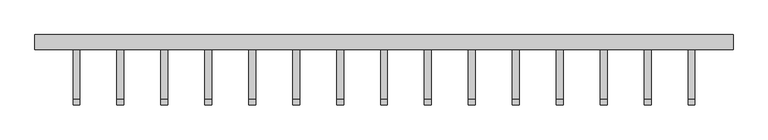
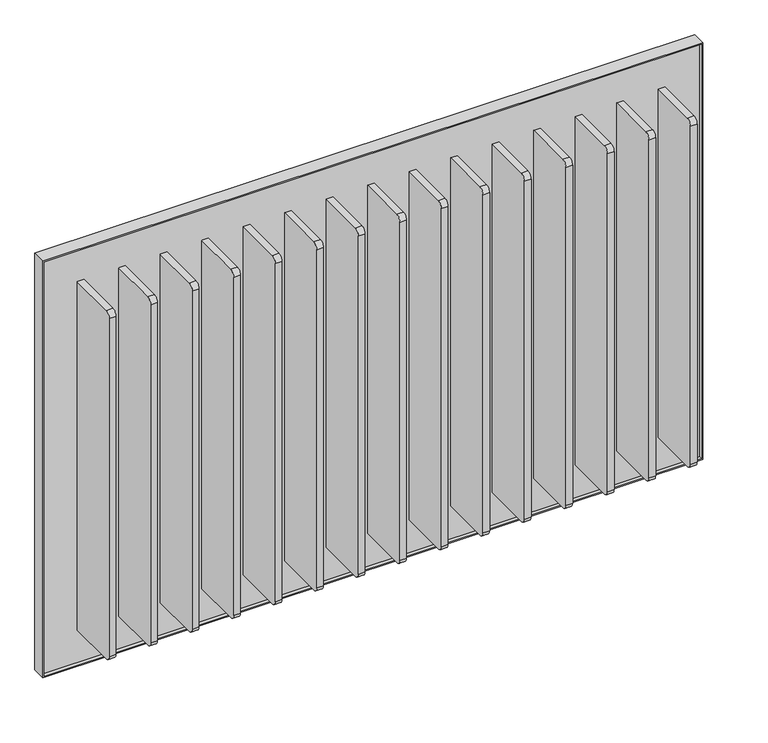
"""IFC4 building model written with IfcOpenShell, lengths in millimetres: proxy geometry, Frame_Cascade 7.3dm."""

from ifc_helpers import new_model, si_unit, point, frame, frame_2d, origin, place, context, project, spatial, polyline, circle_curve, trimmed, segment, composite_curve, outline, extrude, source, transform, mapped, element, save


def generic_models_20795055(model_context):
    return source(origin(), model_context, "Body", "SweptSolid", [
        extrude(outline(polyline([(3076.6541345, 4375.0823426), (3880.6541345, 4375.0823426), (3880.6541345, 3171.0823426), (3076.6541345, 3171.0823426), (3076.6541345, 4375.0823426)]), holes=[polyline([(3078.6541345, 4373.0823426), (3078.6541345, 3173.0823426), (3878.6541345, 3173.0823426), (3878.6541345, 4373.0823426), (3078.6541345, 4373.0823426)])]), frame((0.0, 107.9068681, 0.0), z_axis=(0.0, 1.0, 0.0), x_axis=(0.0, 0.0, 1.0)), (0.0, 0.0, 1.0), 25.4),
        extrude(outline(polyline([(4373.0823426, 114.2568681), (3173.0823426, 114.2568681), (3173.0823426, 126.2568681), (4373.0823426, 126.2568681), (4373.0823426, 114.2568681)])), frame((0.0, 0.0, 3078.6541345), z_axis=(0.0, 0.0, 1.0), x_axis=(1.0, 0.0, 0.0)), (0.0, 0.0, 1.0), 800.0),
        extrude(outline(composite_curve([segment(polyline([(21.9568681, 3814.9041345), (114.2568681, 3814.9041345), (114.2568681, 3142.4041345), (21.9568681, 3142.4041345)]), True, "CONTINUOUS"), segment(trimmed(circle_curve(frame_2d((21.9568681, 3152.4041345)), 10.0), [point((21.9568681, 3142.4041345))], [point((11.9568681, 3152.4041345))], False, "CARTESIAN"), True, "CONTINUOUS"), segment(polyline([(11.9568681, 3152.4041345), (11.9568681, 3804.9041345)]), True, "CONTINUOUS"), segment(trimmed(circle_curve(frame_2d((21.9568681, 3804.9041345)), 10.0), [point((11.9568681, 3804.9041345))], [point((21.9568681, 3814.9041345))], False, "CARTESIAN"), True, "CONTINUOUS")], self_intersect=False)), frame((3236.8323426, 0.0, 0.0), z_axis=(1.0, 0.0, 0.0), x_axis=(0.0, 1.0, 0.0)), (0.0, 0.0, 1.0), 12.0),
        extrude(outline(composite_curve([segment(polyline([(21.9568681, 3814.9041345), (114.2568681, 3814.9041345), (114.2568681, 3142.4041345), (21.9568681, 3142.4041345)]), True, "CONTINUOUS"), segment(trimmed(circle_curve(frame_2d((21.9568681, 3152.4041345)), 10.0), [point((21.9568681, 3142.4041345))], [point((11.9568681, 3152.4041345))], False, "CARTESIAN"), True, "CONTINUOUS"), segment(polyline([(11.9568681, 3152.4041345), (11.9568681, 3804.9041345)]), True, "CONTINUOUS"), segment(trimmed(circle_curve(frame_2d((21.9568681, 3804.9041345)), 10.0), [point((11.9568681, 3804.9041345))], [point((21.9568681, 3814.9041345))], False, "CARTESIAN"), True, "CONTINUOUS")], self_intersect=False)), frame((3312.5823426, 0.0, 0.0), z_axis=(1.0, 0.0, 0.0), x_axis=(0.0, 1.0, 0.0)), (0.0, 0.0, 1.0), 12.0),
        extrude(outline(composite_curve([segment(polyline([(21.9568681, 3814.9041345), (114.2568681, 3814.9041345), (114.2568681, 3142.4041345), (21.9568681, 3142.4041345)]), True, "CONTINUOUS"), segment(trimmed(circle_curve(frame_2d((21.9568681, 3152.4041345)), 10.0), [point((21.9568681, 3142.4041345))], [point((11.9568681, 3152.4041345))], False, "CARTESIAN"), True, "CONTINUOUS"), segment(polyline([(11.9568681, 3152.4041345), (11.9568681, 3804.9041345)]), True, "CONTINUOUS"), segment(trimmed(circle_curve(frame_2d((21.9568681, 3804.9041345)), 10.0), [point((11.9568681, 3804.9041345))], [point((21.9568681, 3814.9041345))], False, "CARTESIAN"), True, "CONTINUOUS")], self_intersect=False)), frame((3388.3323426, 0.0, 0.0), z_axis=(1.0, 0.0, 0.0), x_axis=(0.0, 1.0, 0.0)), (0.0, 0.0, 1.0), 12.0),
        extrude(outline(composite_curve([segment(polyline([(21.9568681, 3814.9041345), (114.2568681, 3814.9041345), (114.2568681, 3142.4041345), (21.9568681, 3142.4041345)]), True, "CONTINUOUS"), segment(trimmed(circle_curve(frame_2d((21.9568681, 3152.4041345)), 10.0), [point((21.9568681, 3142.4041345))], [point((11.9568681, 3152.4041345))], False, "CARTESIAN"), True, "CONTINUOUS"), segment(polyline([(11.9568681, 3152.4041345), (11.9568681, 3804.9041345)]), True, "CONTINUOUS"), segment(trimmed(circle_curve(frame_2d((21.9568681, 3804.9041345)), 10.0), [point((11.9568681, 3804.9041345))], [point((21.9568681, 3814.9041345))], False, "CARTESIAN"), True, "CONTINUOUS")], self_intersect=False)), frame((3464.0823426, 0.0, 0.0), z_axis=(1.0, 0.0, 0.0), x_axis=(0.0, 1.0, 0.0)), (0.0, 0.0, 1.0), 12.0),
        extrude(outline(composite_curve([segment(polyline([(21.9568681, 3814.9041345), (114.2568681, 3814.9041345), (114.2568681, 3142.4041345), (21.9568681, 3142.4041345)]), True, "CONTINUOUS"), segment(trimmed(circle_curve(frame_2d((21.9568681, 3152.4041345)), 10.0), [point((21.9568681, 3142.4041345))], [point((11.9568681, 3152.4041345))], False, "CARTESIAN"), True, "CONTINUOUS"), segment(polyline([(11.9568681, 3152.4041345), (11.9568681, 3804.9041345)]), True, "CONTINUOUS"), segment(trimmed(circle_curve(frame_2d((21.9568681, 3804.9041345)), 10.0), [point((11.9568681, 3804.9041345))], [point((21.9568681, 3814.9041345))], False, "CARTESIAN"), True, "CONTINUOUS")], self_intersect=False)), frame((3539.8323426, 0.0, 0.0), z_axis=(1.0, 0.0, 0.0), x_axis=(0.0, 1.0, 0.0)), (0.0, 0.0, 1.0), 12.0),
        extrude(outline(composite_curve([segment(polyline([(21.9568681, 3814.9041345), (114.2568681, 3814.9041345), (114.2568681, 3142.4041345), (21.9568681, 3142.4041345)]), True, "CONTINUOUS"), segment(trimmed(circle_curve(frame_2d((21.9568681, 3152.4041345)), 10.0), [point((21.9568681, 3142.4041345))], [point((11.9568681, 3152.4041345))], False, "CARTESIAN"), True, "CONTINUOUS"), segment(polyline([(11.9568681, 3152.4041345), (11.9568681, 3804.9041345)]), True, "CONTINUOUS"), segment(trimmed(circle_curve(frame_2d((21.9568681, 3804.9041345)), 10.0), [point((11.9568681, 3804.9041345))], [point((21.9568681, 3814.9041345))], False, "CARTESIAN"), True, "CONTINUOUS")], self_intersect=False)), frame((3615.5823426, 0.0, 0.0), z_axis=(1.0, 0.0, 0.0), x_axis=(0.0, 1.0, 0.0)), (0.0, 0.0, 1.0), 12.0),
        extrude(outline(composite_curve([segment(polyline([(21.9568681, 3814.9041345), (114.2568681, 3814.9041345), (114.2568681, 3142.4041345), (21.9568681, 3142.4041345)]), True, "CONTINUOUS"), segment(trimmed(circle_curve(frame_2d((21.9568681, 3152.4041345)), 10.0), [point((21.9568681, 3142.4041345))], [point((11.9568681, 3152.4041345))], False, "CARTESIAN"), True, "CONTINUOUS"), segment(polyline([(11.9568681, 3152.4041345), (11.9568681, 3804.9041345)]), True, "CONTINUOUS"), segment(trimmed(circle_curve(frame_2d((21.9568681, 3804.9041345)), 10.0), [point((11.9568681, 3804.9041345))], [point((21.9568681, 3814.9041345))], False, "CARTESIAN"), True, "CONTINUOUS")], self_intersect=False)), frame((3691.3323426, 0.0, 0.0), z_axis=(1.0, 0.0, 0.0), x_axis=(0.0, 1.0, 0.0)), (0.0, 0.0, 1.0), 12.0),
        extrude(outline(composite_curve([segment(polyline([(21.9568681, 3814.9041345), (114.2568681, 3814.9041345), (114.2568681, 3142.4041345), (21.9568681, 3142.4041345)]), True, "CONTINUOUS"), segment(trimmed(circle_curve(frame_2d((21.9568681, 3152.4041345)), 10.0), [point((21.9568681, 3142.4041345))], [point((11.9568681, 3152.4041345))], False, "CARTESIAN"), True, "CONTINUOUS"), segment(polyline([(11.9568681, 3152.4041345), (11.9568681, 3804.9041345)]), True, "CONTINUOUS"), segment(trimmed(circle_curve(frame_2d((21.9568681, 3804.9041345)), 10.0), [point((11.9568681, 3804.9041345))], [point((21.9568681, 3814.9041345))], False, "CARTESIAN"), True, "CONTINUOUS")], self_intersect=False)), frame((3767.0823426, 0.0, 0.0), z_axis=(1.0, 0.0, 0.0), x_axis=(0.0, 1.0, 0.0)), (0.0, 0.0, 1.0), 12.0),
        extrude(outline(composite_curve([segment(polyline([(21.9568681, 3814.9041345), (114.2568681, 3814.9041345), (114.2568681, 3142.4041345), (21.9568681, 3142.4041345)]), True, "CONTINUOUS"), segment(trimmed(circle_curve(frame_2d((21.9568681, 3152.4041345)), 10.0), [point((21.9568681, 3142.4041345))], [point((11.9568681, 3152.4041345))], False, "CARTESIAN"), True, "CONTINUOUS"), segment(polyline([(11.9568681, 3152.4041345), (11.9568681, 3804.9041345)]), True, "CONTINUOUS"), segment(trimmed(circle_curve(frame_2d((21.9568681, 3804.9041345)), 10.0), [point((11.9568681, 3804.9041345))], [point((21.9568681, 3814.9041345))], False, "CARTESIAN"), True, "CONTINUOUS")], self_intersect=False)), frame((3918.5823426, 0.0, 0.0), z_axis=(1.0, 0.0, 0.0), x_axis=(0.0, 1.0, 0.0)), (0.0, 0.0, 1.0), 12.0),
        extrude(outline(composite_curve([segment(polyline([(21.9568681, 3814.9041345), (114.2568681, 3814.9041345), (114.2568681, 3142.4041345), (21.9568681, 3142.4041345)]), True, "CONTINUOUS"), segment(trimmed(circle_curve(frame_2d((21.9568681, 3152.4041345)), 10.0), [point((21.9568681, 3142.4041345))], [point((11.9568681, 3152.4041345))], False, "CARTESIAN"), True, "CONTINUOUS"), segment(polyline([(11.9568681, 3152.4041345), (11.9568681, 3804.9041345)]), True, "CONTINUOUS"), segment(trimmed(circle_curve(frame_2d((21.9568681, 3804.9041345)), 10.0), [point((11.9568681, 3804.9041345))], [point((21.9568681, 3814.9041345))], False, "CARTESIAN"), True, "CONTINUOUS")], self_intersect=False)), frame((3842.8323426, 0.0, 0.0), z_axis=(1.0, 0.0, 0.0), x_axis=(0.0, 1.0, 0.0)), (0.0, 0.0, 1.0), 12.0),
        extrude(outline(composite_curve([segment(polyline([(21.9568681, 3814.9041345), (114.2568681, 3814.9041345), (114.2568681, 3142.4041345), (21.9568681, 3142.4041345)]), True, "CONTINUOUS"), segment(trimmed(circle_curve(frame_2d((21.9568681, 3152.4041345)), 10.0), [point((21.9568681, 3142.4041345))], [point((11.9568681, 3152.4041345))], False, "CARTESIAN"), True, "CONTINUOUS"), segment(polyline([(11.9568681, 3152.4041345), (11.9568681, 3804.9041345)]), True, "CONTINUOUS"), segment(trimmed(circle_curve(frame_2d((21.9568681, 3804.9041345)), 10.0), [point((11.9568681, 3804.9041345))], [point((21.9568681, 3814.9041345))], False, "CARTESIAN"), True, "CONTINUOUS")], self_intersect=False)), frame((3994.3323426, 0.0, 0.0), z_axis=(1.0, 0.0, 0.0), x_axis=(0.0, 1.0, 0.0)), (0.0, 0.0, 1.0), 12.0),
        extrude(outline(composite_curve([segment(polyline([(21.9568681, 3814.9041345), (114.2568681, 3814.9041345), (114.2568681, 3142.4041345), (21.9568681, 3142.4041345)]), True, "CONTINUOUS"), segment(trimmed(circle_curve(frame_2d((21.9568681, 3152.4041345)), 10.0), [point((21.9568681, 3142.4041345))], [point((11.9568681, 3152.4041345))], False, "CARTESIAN"), True, "CONTINUOUS"), segment(polyline([(11.9568681, 3152.4041345), (11.9568681, 3804.9041345)]), True, "CONTINUOUS"), segment(trimmed(circle_curve(frame_2d((21.9568681, 3804.9041345)), 10.0), [point((11.9568681, 3804.9041345))], [point((21.9568681, 3814.9041345))], False, "CARTESIAN"), True, "CONTINUOUS")], self_intersect=False)), frame((4145.8323426, 0.0, 0.0), z_axis=(1.0, 0.0, 0.0), x_axis=(0.0, 1.0, 0.0)), (0.0, 0.0, 1.0), 12.0),
        extrude(outline(composite_curve([segment(polyline([(21.9568681, 3814.9041345), (114.2568681, 3814.9041345), (114.2568681, 3142.4041345), (21.9568681, 3142.4041345)]), True, "CONTINUOUS"), segment(trimmed(circle_curve(frame_2d((21.9568681, 3152.4041345)), 10.0), [point((21.9568681, 3142.4041345))], [point((11.9568681, 3152.4041345))], False, "CARTESIAN"), True, "CONTINUOUS"), segment(polyline([(11.9568681, 3152.4041345), (11.9568681, 3804.9041345)]), True, "CONTINUOUS"), segment(trimmed(circle_curve(frame_2d((21.9568681, 3804.9041345)), 10.0), [point((11.9568681, 3804.9041345))], [point((21.9568681, 3814.9041345))], False, "CARTESIAN"), True, "CONTINUOUS")], self_intersect=False)), frame((4297.3323426, 0.0, 0.0), z_axis=(1.0, 0.0, 0.0), x_axis=(0.0, 1.0, 0.0)), (0.0, 0.0, 1.0), 12.0),
        extrude(outline(composite_curve([segment(polyline([(21.9568681, 3814.9041345), (114.2568681, 3814.9041345), (114.2568681, 3142.4041345), (21.9568681, 3142.4041345)]), True, "CONTINUOUS"), segment(trimmed(circle_curve(frame_2d((21.9568681, 3152.4041345)), 10.0), [point((21.9568681, 3142.4041345))], [point((11.9568681, 3152.4041345))], False, "CARTESIAN"), True, "CONTINUOUS"), segment(polyline([(11.9568681, 3152.4041345), (11.9568681, 3804.9041345)]), True, "CONTINUOUS"), segment(trimmed(circle_curve(frame_2d((21.9568681, 3804.9041345)), 10.0), [point((11.9568681, 3804.9041345))], [point((21.9568681, 3814.9041345))], False, "CARTESIAN"), True, "CONTINUOUS")], self_intersect=False)), frame((4070.0823426, 0.0, 0.0), z_axis=(1.0, 0.0, 0.0), x_axis=(0.0, 1.0, 0.0)), (0.0, 0.0, 1.0), 12.0),
        extrude(outline(composite_curve([segment(polyline([(21.9568681, 3814.9041345), (114.2568681, 3814.9041345), (114.2568681, 3142.4041345), (21.9568681, 3142.4041345)]), True, "CONTINUOUS"), segment(trimmed(circle_curve(frame_2d((21.9568681, 3152.4041345)), 10.0), [point((21.9568681, 3142.4041345))], [point((11.9568681, 3152.4041345))], False, "CARTESIAN"), True, "CONTINUOUS"), segment(polyline([(11.9568681, 3152.4041345), (11.9568681, 3804.9041345)]), True, "CONTINUOUS"), segment(trimmed(circle_curve(frame_2d((21.9568681, 3804.9041345)), 10.0), [point((11.9568681, 3804.9041345))], [point((21.9568681, 3814.9041345))], False, "CARTESIAN"), True, "CONTINUOUS")], self_intersect=False)), frame((4221.5823426, 0.0, 0.0), z_axis=(1.0, 0.0, 0.0), x_axis=(0.0, 1.0, 0.0)), (0.0, 0.0, 1.0), 12.0),
    ])


if __name__ == "__main__":
    model = new_model("IFC4")
    model_context = context("Model", 3, world=origin())
    ifc_project = project(units=[si_unit("LENGTHUNIT", "METRE", prefix="MILLI")], contexts=[model_context])
    site = spatial("IfcSite", under=ifc_project)
    building = spatial("IfcBuilding", under=site)
    placement = place(None, origin())
    generic_models_shape = generic_models_20795055(model_context)
    element("IfcBuildingElementProxy", 1, Name="Frame_Cascade 7.3dm", ObjectType="Frame_Cascade 7.3dm", at=placement, inside=building, context=model_context, shape_type="MappedRepresentation", body=[
        mapped(generic_models_shape, transform((0.0, 0.0, 0.0), x_axis=(1.0, 0.0, 0.0), y_axis=(0.0, 1.0, 0.0), z_axis=(0.0, 0.0, 1.0))),
    ])
    save(model, "model.ifc")
